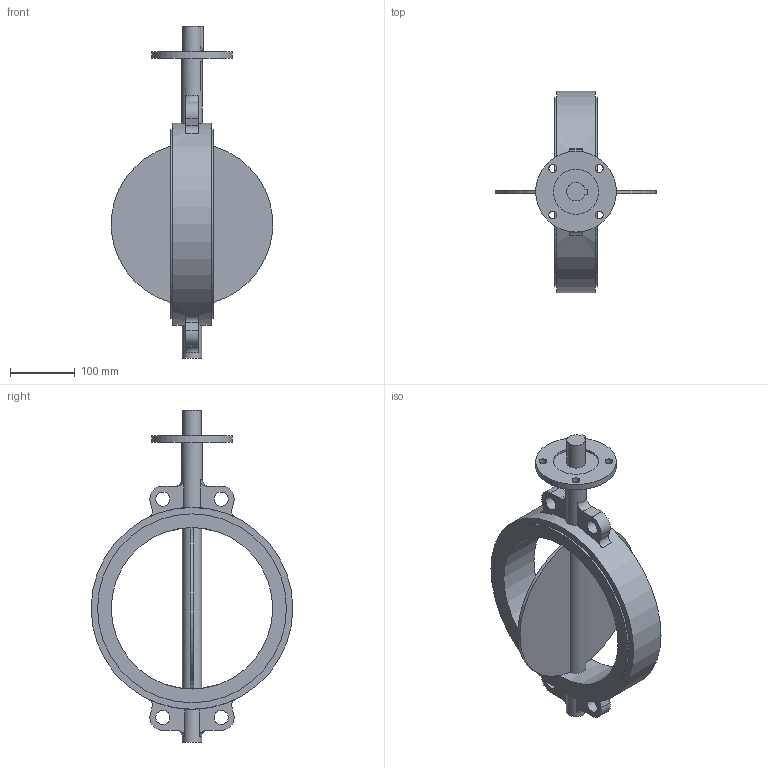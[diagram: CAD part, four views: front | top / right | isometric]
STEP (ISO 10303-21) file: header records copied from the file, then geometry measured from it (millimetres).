
FILE_DESCRIPTION(('STEP AP203'), '1');
FILE_NAME('青蜮铕 017W.Y_DN250_PN10', '', ('UNSPECIFIED'), ('UNSPECIFIED'), 'ASCON STEP Converter 1.6', 'ASCON Math Kernel', '');
FILE_SCHEMA(('CONFIG_CONTROL_DESIGN'));
Length unit declared in the file: millimetre
Bounding box: 249.51 x 312.4 x 514 mm (x, y, z)
Volume: 2518451.6 mm3; surface area: 343624 mm2
Topology: 1 solids, 1 shells, 89 faces, 220 edges, 146 vertices
Faces by surface type: plane 48, cylinder 37, torus 4
Full cylindrical faces by diameter (mm): 12 x4, 22 x4, 28.5 x1, 30 x2, 32 x1, 70 x1, 125 x1, 250 x1, 292.4 x2, 312.4 x1
Entity records: 4782 total; most frequent: CARTESIAN_POINT 1890, DIRECTION 452, ORIENTED_EDGE 404, EDGE_CURVE 202, AXIS2_PLACEMENT_3D 180, VERTEX_POINT 146, EDGE_LOOP 140, FACE_BOUND 107
